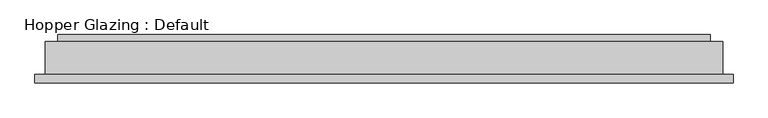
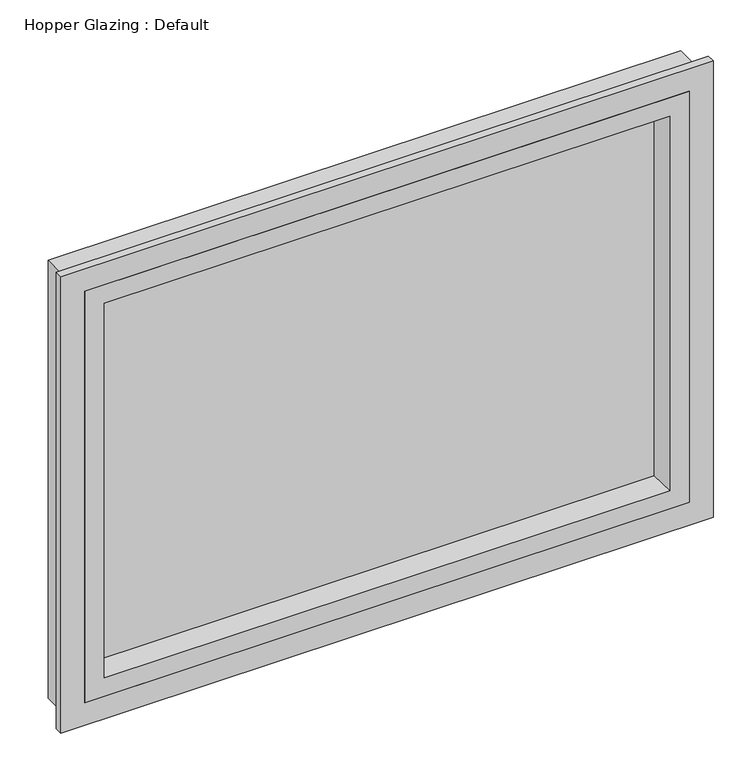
"""IFC4 building model written with IfcOpenShell, lengths in millimetres: proxy geometry, Hopper Glazing : Default."""

from ifc_helpers import new_model, si_unit, frame, origin, place, context, project, spatial, polyline, outline, extrude, faceted_brep, source, transform, mapped, element, save


def hopper_glazing_default_b8ed1175(model_context):
    return source(origin(), model_context, "Body", "SolidModel", [
        extrude(outline(polyline([(-533.4, 64.29375), (-533.4, 69.85), (533.4, 69.85), (533.4, 64.29375), (-533.4, 64.29375)])), frame((0.0, 0.0, 838.2), z_axis=(0.0, 0.0, 1.0), x_axis=(1.0, 0.0, 0.0)), (0.0, 0.0, 1.0), 762.0),
        extrude(outline(polyline([(-533.4, 41.275), (-533.4, 46.83125), (533.4, 46.83125), (533.4, 41.275), (-533.4, 41.275)])), frame((0.0, 0.0, 838.2), z_axis=(0.0, 0.0, 1.0), x_axis=(1.0, 0.0, 0.0)), (0.0, 0.0, 1.0), 762.0),
        faceted_brep([(-503.2375, 41.275, 868.3625), (-508.0, 0.0, 863.6), (508.0, 0.0, 863.6), (503.2375, 41.275, 868.3625), (-533.4, 20.6375, 838.2), (-509.5875, 41.275, 862.0125), (509.5875, 41.275, 862.0125), (533.4, 20.6375, 838.2), (-533.4, 1.5875, 838.2), (533.4, 1.5875, 838.2), (-542.925, 0.0, 828.675), (-542.925, 1.5875, 828.675), (542.925, 1.5875, 828.675), (542.925, 0.0, 828.675), (508.0, 0.0, 1574.8), (503.2375, 41.275, 1570.0375), (509.5875, 41.275, 1576.3875), (533.4, 20.6375, 1600.2), (533.4, 1.5875, 1600.2), (542.925, 1.5875, 1609.725), (542.925, 0.0, 1609.725), (-508.0, 0.0, 1574.8), (-503.2375, 41.275, 1570.0375), (-509.5875, 41.275, 1576.3875), (-533.4, 20.6375, 1600.2), (-533.4, 1.5875, 1600.2), (-542.925, 1.5875, 1609.725), (-542.925, 0.0, 1609.725)], [[[0, 1, 2, 3]], [[4, 5, 6, 7]], [[8, 4, 7, 9]], [[10, 11, 12, 13]], [[3, 2, 14, 15]], [[7, 6, 16, 17]], [[9, 7, 17, 18]], [[13, 12, 19, 20]], [[15, 14, 21, 22]], [[17, 16, 23, 24]], [[18, 17, 24, 25]], [[20, 19, 26, 27]], [[22, 21, 1, 0]], [[5, 23, 16, 6], [3, 15, 22, 0]], [[24, 23, 5, 4]], [[25, 24, 4, 8]], [[11, 26, 19, 12], [9, 18, 25, 8]], [[27, 26, 11, 10]], [[13, 20, 27, 10], [1, 21, 14, 2]]]),
        faceted_brep([(-542.925, 14.2875, 828.675), (-542.925, 0.0, 828.675), (542.925, 0.0, 828.675), (542.925, 14.2875, 828.675), (-533.4, 69.85, 838.2), (-533.4, 14.2875, 838.2), (533.4, 14.2875, 838.2), (533.4, 69.85, 838.2), (-504.825, 80.9625, 866.775), (-504.825, 69.85, 866.775), (504.825, 69.85, 866.775), (504.825, 80.9625, 866.775), (-547.6875, 69.85, 823.9125), (-547.6875, 80.9625, 823.9125), (547.6875, 80.9625, 823.9125), (547.6875, 69.85, 823.9125), (-568.325, 14.2875, 803.275), (-568.325, 69.85, 803.275), (568.325, 69.85, 803.275), (568.325, 14.2875, 803.275), (-585.7875, 0.0, 785.8125), (-585.7875, 14.2875, 785.8125), (585.7875, 14.2875, 785.8125), (585.7875, 0.0, 785.8125), (542.925, 0.0, 1609.725), (542.925, 14.2875, 1609.725), (533.4, 14.2875, 1600.2), (533.4, 69.85, 1600.2), (504.825, 69.85, 1571.625), (504.825, 80.9625, 1571.625), (547.6875, 80.9625, 1614.4875), (547.6875, 69.85, 1614.4875), (568.325, 69.85, 1635.125), (568.325, 14.2875, 1635.125), (585.7875, 14.2875, 1652.5875), (585.7875, 0.0, 1652.5875), (-542.925, 0.0, 1609.725), (-542.925, 14.2875, 1609.725), (-533.4, 14.2875, 1600.2), (-533.4, 69.85, 1600.2), (-504.825, 69.85, 1571.625), (-504.825, 80.9625, 1571.625), (-547.6875, 80.9625, 1614.4875), (-547.6875, 69.85, 1614.4875), (-568.325, 69.85, 1635.125), (-568.325, 14.2875, 1635.125), (-585.7875, 14.2875, 1652.5875), (-585.7875, 0.0, 1652.5875)], [[[0, 1, 2, 3]], [[4, 5, 6, 7]], [[8, 9, 10, 11]], [[12, 13, 14, 15]], [[16, 17, 18, 19]], [[20, 21, 22, 23]], [[3, 2, 24, 25]], [[7, 6, 26, 27]], [[11, 10, 28, 29]], [[15, 14, 30, 31]], [[19, 18, 32, 33]], [[23, 22, 34, 35]], [[25, 24, 36, 37]], [[27, 26, 38, 39]], [[29, 28, 40, 41]], [[31, 30, 42, 43]], [[33, 32, 44, 45]], [[35, 34, 46, 47]], [[37, 36, 1, 0]], [[3, 25, 37, 0], [5, 38, 26, 6]], [[39, 38, 5, 4]], [[7, 27, 39, 4], [9, 40, 28, 10]], [[41, 40, 9, 8]], [[13, 42, 30, 14], [11, 29, 41, 8]], [[43, 42, 13, 12]], [[17, 44, 32, 18], [15, 31, 43, 12]], [[45, 44, 17, 16]], [[21, 46, 34, 22], [19, 33, 45, 16]], [[47, 46, 21, 20]], [[23, 35, 47, 20], [1, 36, 24, 2]]]),
    ])


if __name__ == "__main__":
    model = new_model("IFC4")
    model_context = context("Model", 3, world=origin())
    ifc_project = project(units=[si_unit("LENGTHUNIT", "METRE", prefix="MILLI")], contexts=[model_context])
    site = spatial("IfcSite", under=ifc_project)
    building = spatial("IfcBuilding", under=site)
    placement = place(None, origin())
    hopper_glazing_default_shape = hopper_glazing_default_b8ed1175(model_context)
    element("IfcBuildingElementProxy", 1, Name="Hopper Glazing : Default", ObjectType="Hopper Glazing : Default", at=placement, inside=building, context=model_context, shape_type="MappedRepresentation", body=[
        mapped(hopper_glazing_default_shape, transform((0.0, 0.0, 0.0), x_axis=(1.0, 0.0, 0.0), y_axis=(0.0, 1.0, 0.0), z_axis=(0.0, 0.0, 1.0))),
    ])
    save(model, "model.ifc")
